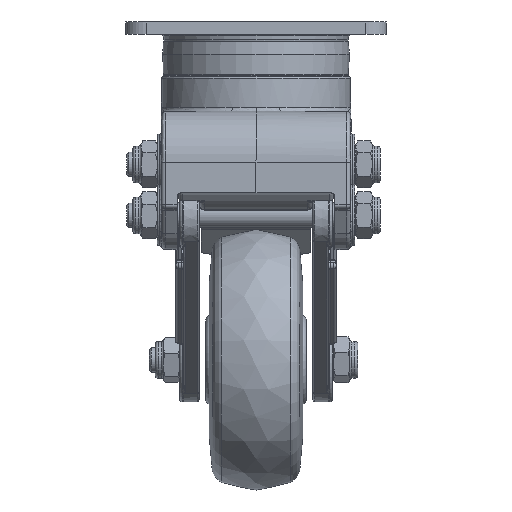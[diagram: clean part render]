
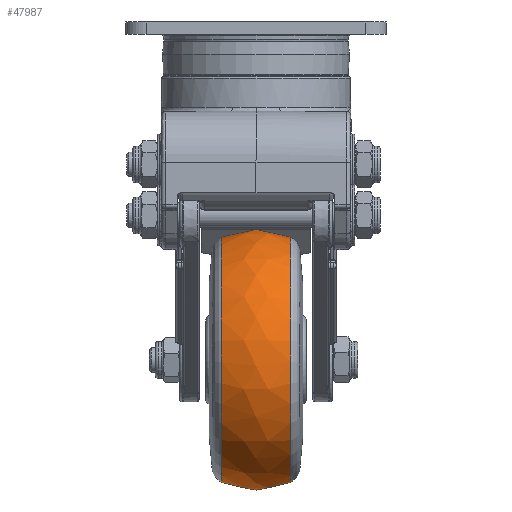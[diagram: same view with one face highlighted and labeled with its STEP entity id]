
A CAD part, left-side view. The second image highlights one B-rep face of the part: STEP entity #47987.
In plain terms, the highlighted free-form (B-spline) face has degree [2, 2] with [3, 9] control points.
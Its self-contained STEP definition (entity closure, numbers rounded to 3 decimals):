
#18=(
BOUNDED_SURFACE()
B_SPLINE_SURFACE(2,2,((#83767,#83768,#83769,#83770,#83771,#83772,#83773,
#83774,#83775),(#83776,#83777,#83778,#83779,#83780,#83781,#83782,#83783,
#83784),(#83785,#83786,#83787,#83788,#83789,#83790,#83791,#83792,#83793)),
 .UNSPECIFIED.,.F.,.T.,.F.)
B_SPLINE_SURFACE_WITH_KNOTS((3,3),(3,2,2,2,3),(-0.438,0.438),
(-3.142,-1.571,0.,1.571,3.142),
 .UNSPECIFIED.)
GEOMETRIC_REPRESENTATION_ITEM()
RATIONAL_B_SPLINE_SURFACE(((1.,0.707,1.,0.707,1.,
0.707,1.,0.707,1.),(0.906,0.64,
0.906,0.64,0.906,0.64,
0.906,0.64,0.906),(1.,0.707,
1.,0.707,1.,0.707,1.,0.707,1.)))
REPRESENTATION_ITEM('')
SURFACE()
);
#5230=CIRCLE('',#51804,30.112);
#5231=CIRCLE('',#51805,30.112);
#5242=CIRCLE('',#51822,30.112);
#5243=CIRCLE('',#51823,30.112);
#5245=CIRCLE('',#51825,20.);
#7323=FACE_OUTER_BOUND('',#10097,.T.);
#10097=EDGE_LOOP('',(#37421,#37422,#37423,#37424,#37425,#37426));
#20264=VERTEX_POINT('',#83728);
#20265=VERTEX_POINT('',#83730);
#20276=VERTEX_POINT('',#83762);
#20277=VERTEX_POINT('',#83763);
#26252=EDGE_CURVE('',#20264,#20265,#5230,.T.);
#26253=EDGE_CURVE('',#20265,#20264,#5231,.T.);
#26267=EDGE_CURVE('',#20276,#20277,#5242,.T.);
#26268=EDGE_CURVE('',#20277,#20276,#5243,.T.);
#26270=EDGE_CURVE('',#20264,#20277,#5245,.T.);
#37421=ORIENTED_EDGE('',*,*,#26253,.F.);
#37422=ORIENTED_EDGE('',*,*,#26252,.F.);
#37423=ORIENTED_EDGE('',*,*,#26270,.T.);
#37424=ORIENTED_EDGE('',*,*,#26268,.T.);
#37425=ORIENTED_EDGE('',*,*,#26267,.T.);
#37426=ORIENTED_EDGE('',*,*,#26270,.F.);
#47987=ADVANCED_FACE('',(#7323),#18,.F.);
#51804=AXIS2_PLACEMENT_3D('',#83731,#60330,#60331);
#51805=AXIS2_PLACEMENT_3D('',#83732,#60332,#60333);
#51822=AXIS2_PLACEMENT_3D('',#83764,#60369,#60370);
#51823=AXIS2_PLACEMENT_3D('',#83765,#60371,#60372);
#51825=AXIS2_PLACEMENT_3D('',#83794,#60375,#60376);
#60330=DIRECTION('center_axis',(0.,-1.,0.));
#60331=DIRECTION('ref_axis',(-0.325,0.,-0.946));
#60332=DIRECTION('center_axis',(0.,-1.,0.));
#60333=DIRECTION('ref_axis',(-0.325,0.,-0.946));
#60369=DIRECTION('center_axis',(0.,-1.,0.));
#60370=DIRECTION('ref_axis',(-0.325,0.,-0.946));
#60371=DIRECTION('center_axis',(0.,-1.,0.));
#60372=DIRECTION('ref_axis',(-0.325,0.,-0.946));
#60375=DIRECTION('center_axis',(-0.946,0.,
0.325));
#60376=DIRECTION('ref_axis',(0.325,0.,0.946));
#83728=CARTESIAN_POINT('',(18.28,-13.461,-40.184));
#83730=CARTESIAN_POINT('',(-1.284,-13.461,-97.142));
#83731=CARTESIAN_POINT('Origin',(8.498,-13.461,-68.663));
#83732=CARTESIAN_POINT('Origin',(8.498,-13.461,-68.663));
#83762=CARTESIAN_POINT('',(-1.284,3.504,-97.142));
#83763=CARTESIAN_POINT('',(18.28,3.504,-40.184));
#83764=CARTESIAN_POINT('Origin',(8.498,3.504,-68.663));
#83765=CARTESIAN_POINT('Origin',(8.498,3.504,-68.663));
#83767=CARTESIAN_POINT('Ctrl Pts',(18.28,3.504,-40.184));
#83768=CARTESIAN_POINT('Ctrl Pts',(-10.199,3.504,-30.402));
#83769=CARTESIAN_POINT('Ctrl Pts',(-19.981,3.504,-58.881));
#83770=CARTESIAN_POINT('Ctrl Pts',(-29.763,3.504,-87.36));
#83771=CARTESIAN_POINT('Ctrl Pts',(-1.284,3.504,-97.142));
#83772=CARTESIAN_POINT('Ctrl Pts',(27.195,3.504,-106.924));
#83773=CARTESIAN_POINT('Ctrl Pts',(36.977,3.504,-78.445));
#83774=CARTESIAN_POINT('Ctrl Pts',(46.759,3.504,-49.966));
#83775=CARTESIAN_POINT('Ctrl Pts',(18.28,3.504,-40.184));
#83776=CARTESIAN_POINT('Ctrl Pts',(19.571,-4.979,-36.427));
#83777=CARTESIAN_POINT('Ctrl Pts',(-12.665,-4.979,-25.355));
#83778=CARTESIAN_POINT('Ctrl Pts',(-23.738,-4.979,-57.59));
#83779=CARTESIAN_POINT('Ctrl Pts',(-34.811,-4.979,-89.826));
#83780=CARTESIAN_POINT('Ctrl Pts',(-2.575,-4.979,
-100.899));
#83781=CARTESIAN_POINT('Ctrl Pts',(29.661,-4.979,-111.972));
#83782=CARTESIAN_POINT('Ctrl Pts',(40.734,-4.979,-79.736));
#83783=CARTESIAN_POINT('Ctrl Pts',(51.807,-4.979,-47.5));
#83784=CARTESIAN_POINT('Ctrl Pts',(19.571,-4.979,-36.427));
#83785=CARTESIAN_POINT('Ctrl Pts',(18.28,-13.461,-40.184));
#83786=CARTESIAN_POINT('Ctrl Pts',(-10.199,-13.461,
-30.402));
#83787=CARTESIAN_POINT('Ctrl Pts',(-19.981,-13.461,-58.881));
#83788=CARTESIAN_POINT('Ctrl Pts',(-29.763,-13.461,
-87.36));
#83789=CARTESIAN_POINT('Ctrl Pts',(-1.284,-13.461,
-97.142));
#83790=CARTESIAN_POINT('Ctrl Pts',(27.195,-13.461,-106.924));
#83791=CARTESIAN_POINT('Ctrl Pts',(36.977,-13.461,-78.445));
#83792=CARTESIAN_POINT('Ctrl Pts',(46.759,-13.461,-49.966));
#83793=CARTESIAN_POINT('Ctrl Pts',(18.28,-13.461,-40.184));
#83794=CARTESIAN_POINT('Origin',(12.396,-4.979,-57.314));
